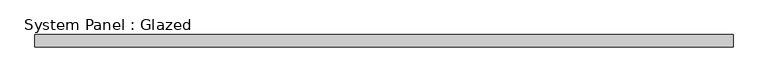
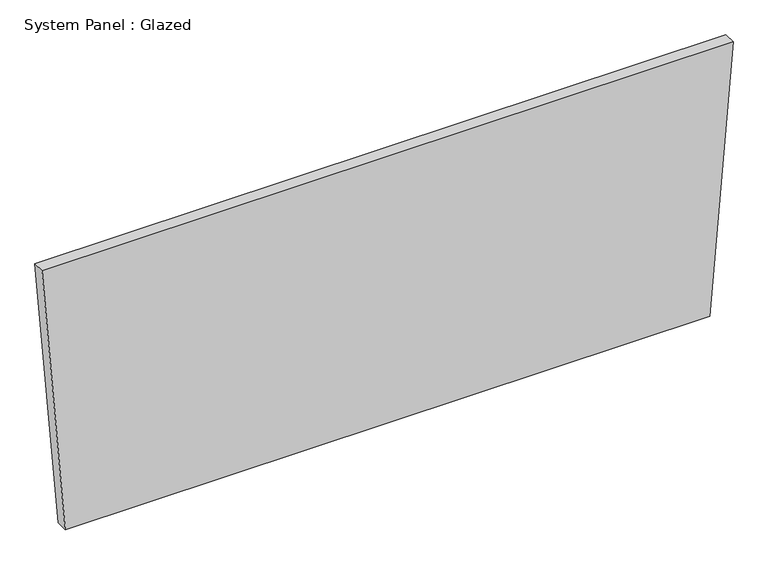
"""IFC4 building model written with IfcOpenShell, lengths in millimetres: plate geometry, System Panel : Glazed."""

from ifc_helpers import new_model, si_unit, frame, origin, place, context, project, spatial, polyline, outline, extrude, source, transform, mapped, element, save


def system_panel_glazed_51026fb6(model_context):
    return source(origin(), model_context, "Body", "SweptSolid", [
        extrude(outline(polyline([(0.0, -665.1728319), (0.0, 665.1728319), (582.1493342, 713.0438024), (582.1493342, -713.0438024), (0.0, -665.1728319)])), frame((0.0, 19.05, 0.0), z_axis=(0.0, 1.0, 0.0), x_axis=(0.0, 0.0, 1.0)), (0.0, 0.0, 1.0), 25.4),
    ])


if __name__ == "__main__":
    model = new_model("IFC4")
    model_context = context("Model", 3, world=origin())
    ifc_project = project(units=[si_unit("LENGTHUNIT", "METRE", prefix="MILLI")], contexts=[model_context])
    site = spatial("IfcSite", under=ifc_project)
    building = spatial("IfcBuilding", under=site)
    placement = place(None, origin())
    system_panel_glazed_shape = system_panel_glazed_51026fb6(model_context)
    element("IfcPlate", 1, ObjectType="System Panel : Glazed", at=placement, inside=building, context=model_context, shape_type="MappedRepresentation", body=[
        mapped(system_panel_glazed_shape, transform((0.0, 0.0, 0.0), x_axis=(1.0, 0.0, 0.0), y_axis=(0.0, 1.0, 0.0), z_axis=(0.0, 0.0, 1.0))),
    ])
    save(model, "model.ifc")
